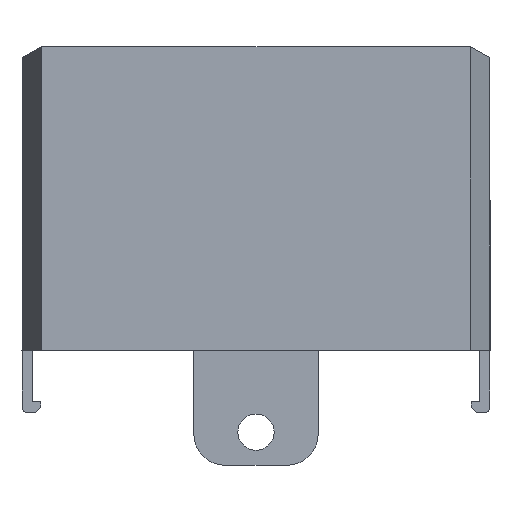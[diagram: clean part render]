
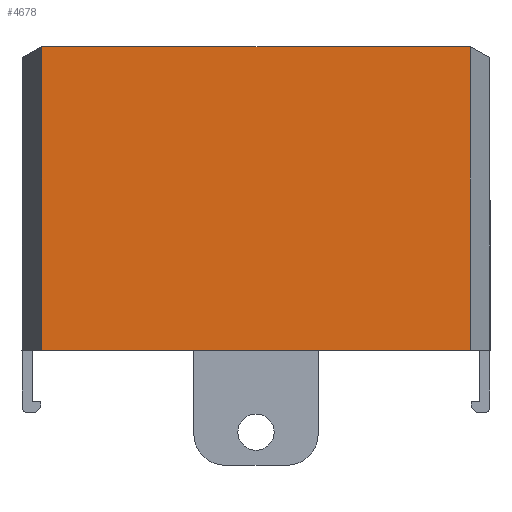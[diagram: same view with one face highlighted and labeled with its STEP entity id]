
A CAD part, left-side view. The second image highlights one B-rep face of the part: STEP entity #4678.
In plain terms, the highlighted planar face has unit normal (-1, 0, 0).
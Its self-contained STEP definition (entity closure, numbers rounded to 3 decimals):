
#5=DIRECTION('',(0.,1.,0.));
#6=VECTOR('',#5,41.362);
#7=CARTESIAN_POINT('',(-23.404,-20.681,24.906));
#8=LINE('',#7,#6);
#1993=DIRECTION('',(0.,0.,1.));
#1994=VECTOR('',#1993,29.324);
#1995=CARTESIAN_POINT('',(-23.404,20.681,
-4.418));
#1996=LINE('',#1995,#1994);
#1997=DIRECTION('',(0.,0.,-1.));
#1998=VECTOR('',#1997,29.324);
#1999=CARTESIAN_POINT('',(-23.404,-20.681,
24.906));
#2000=LINE('',#1999,#1998);
#2001=DIRECTION('',(0.,1.,0.));
#2002=VECTOR('',#2001,41.362);
#2003=CARTESIAN_POINT('',(-23.404,-20.681,
-4.418));
#2004=LINE('',#2003,#2002);
#2021=CARTESIAN_POINT('',(-23.404,-20.681,
24.906));
#2022=VERTEX_POINT('',#2021);
#2023=CARTESIAN_POINT('',(-23.404,20.681,24.906));
#2024=VERTEX_POINT('',#2023);
#2103=CARTESIAN_POINT('',(-23.404,20.681,
-4.418));
#2104=VERTEX_POINT('',#2103);
#2105=CARTESIAN_POINT('',(-23.404,-20.681,
-4.418));
#2106=VERTEX_POINT('',#2105);
#4666=CARTESIAN_POINT('',(-23.404,20.681,1.282));
#4667=DIRECTION('',(-1.,0.,0.));
#4668=DIRECTION('',(0.,-1.,0.));
#4669=AXIS2_PLACEMENT_3D('',#4666,#4667,#4668);
#4670=PLANE('',#4669);
#4671=ORIENTED_EDGE('',*,*,#4660,.T.);
#4672=ORIENTED_EDGE('',*,*,#2385,.F.);
#4674=ORIENTED_EDGE('',*,*,#4673,.T.);
#4675=ORIENTED_EDGE('',*,*,#2488,.T.);
#4676=EDGE_LOOP('',(#4671,#4672,#4674,#4675));
#4677=FACE_OUTER_BOUND('',#4676,.F.);
#4678=ADVANCED_FACE('',(#4677),#4670,.T.);
#2385=EDGE_CURVE('',#2022,#2024,#8,.T.);
#2488=EDGE_CURVE('',#2106,#2104,#2004,.T.);
#4660=EDGE_CURVE('',#2104,#2024,#1996,.T.);
#4673=EDGE_CURVE('',#2022,#2106,#2000,.T.);
